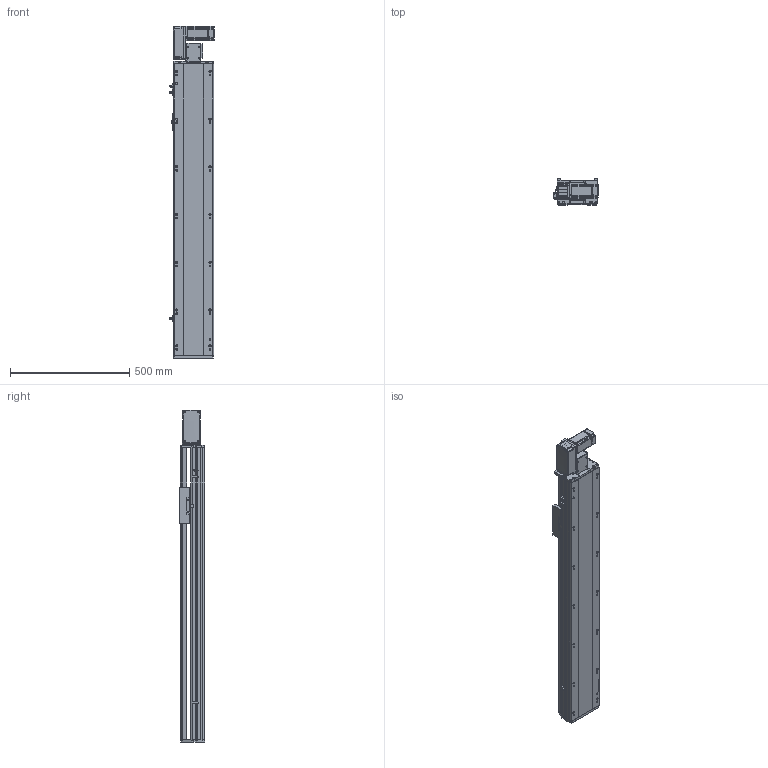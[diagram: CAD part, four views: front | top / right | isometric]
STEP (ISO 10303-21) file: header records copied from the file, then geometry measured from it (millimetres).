
FILE_DESCRIPTION (( 'STEP AP214' ), '1' );
FILE_NAME ('RTB17S-XX-950-L-M40-C4.STEP', '2025-12-11T05:35:12', ( '' ), ( '' ), 'SwSTEP 2.0', 'SolidWorks 2018', '' );
FILE_SCHEMA (( 'AUTOMOTIVE_DESIGN' ));
Length unit declared in the file: millimetre
Products named in the file (14): RTB17S-L-007上盖^RTB17S-XX-XX-L-M40-C4（方程式）; RTB17S-L-001侧面板^RTB17S-XX-XX-L-M40-C4（方程式）; RTB17-R-011底座^RTB17S-XX-XX-L-M40-C4（方程式）; OMRON EE-SX672 传感器^RTB17S-XX-XX-L-M40-C4（方程式）; RTB17S-XX-950-L-M40-C4; RTB14-L-018P^RTB17S-L-皮带座装配-400W_RTB17S-XX-XX-L-M40-C4（方程式）; RTB14-L-017P^RTB17S-L-皮带座装配-400W_RTB17S-XX-XX-L-M40-C4（方程式）; RTB14-L-008-M20--电机板^RTB17S-L-皮带座装配-400W_RTB17S-XX-XX-L-M40-C4（方程式）; RTB14-L-005P--轴承塑胶压盖^RTB17S-L-皮带座装配-400W_RTB17S-XX-XX-L-M40-C4（方程式）; RTB17S-L-皮带座装配-400W^RTB17S-XX-XX-L-M40-C4（方程式）; RTH13-BL-012感应片外置^RTB17S-XX-XX-L-M40-C4（方程式）; RTB17S-L-004丝杆螺母连接座^RTB17S-XX-XX-L-M40-C4（方程式）; 400W伺服电机^RTB17S-XX-XX-L-M40-C4（方程式）; RMP17S-L-014-T20--皮带座^RTB17S-L-皮带座装配-400W_RTB17S-XX-XX-L-M40-C4（方程式）
Assembly tree (16 placements, depth 3):
  RTB17S-XX-950-L-M40-C4
    RTB17-R-011底座^RTB17S-XX-XX-L-M40-C4（方程式）
    RTB17S-L-007上盖^RTB17S-XX-XX-L-M40-C4（方程式）
    OMRON EE-SX672 传感器^RTB17S-XX-XX-L-M40-C4（方程式）  x3
    RTB17S-L-001侧面板^RTB17S-XX-XX-L-M40-C4（方程式）
    400W伺服电机^RTB17S-XX-XX-L-M40-C4（方程式）
    RTB17S-L-004丝杆螺母连接座^RTB17S-XX-XX-L-M40-C4（方程式）
    RTH13-BL-012感应片外置^RTB17S-XX-XX-L-M40-C4（方程式）
    RTB17S-L-皮带座装配-400W^RTB17S-XX-XX-L-M40-C4（方程式）
      RMP17S-L-014-T20--皮带座^RTB17S-L-皮带座装配-400W_RTB17S-XX-XX-L-M40-C4（方程式）
      RTB14-L-005P--轴承塑胶压盖^RTB17S-L-皮带座装配-400W_RTB17S-XX-XX-L-M40-C4（方程式）
      RTB14-L-008-M20--电机板^RTB17S-L-皮带座装配-400W_RTB17S-XX-XX-L-M40-C4（方程式）
      RTB14-L-017P^RTB17S-L-皮带座装配-400W_RTB17S-XX-XX-L-M40-C4（方程式）  x2
      RTB14-L-018P^RTB17S-L-皮带座装配-400W_RTB17S-XX-XX-L-M40-C4（方程式）
Bounding box: 186 x 108 x 1391 mm (x, y, z)
Volume: 11966621.3 mm3; surface area: 1453600.3 mm2
Topology: 15 solids, 15 shells, 2205 faces, 6087 edges, 3969 vertices
Faces by surface type: plane 1068, cylinder 689, bspline 301, cone 139, torus 8
Entity records: 62633 total; most frequent: CARTESIAN_POINT 17492, ORIENTED_EDGE 9018, DIRECTION 8396, EDGE_CURVE 4509, VERTEX_POINT 2957, AXIS2_PLACEMENT_3D 2887, LINE 2622, VECTOR 2622
